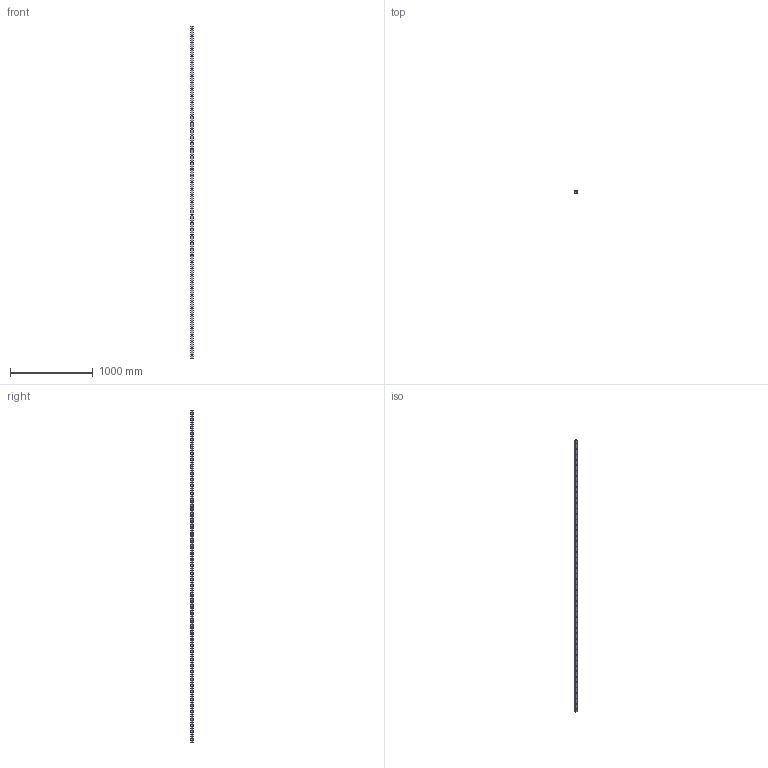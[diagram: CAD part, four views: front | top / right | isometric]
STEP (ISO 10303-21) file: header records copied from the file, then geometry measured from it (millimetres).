
FILE_DESCRIPTION (( 'STEP AP203' ), '1' );
FILE_NAME ('R30-4000.STEP', '2019-05-31T08:12:54', ( '' ), ( '' ), 'SwSTEP 2.0', 'SolidWorks 2016', '' );
FILE_SCHEMA (( 'CONFIG_CONTROL_DESIGN' ));
Length unit declared in the file: millimetre
Products named in the file (1): R30-4000
Bounding box: 28 x 26 x 4000 mm (x, y, z)
Volume: 2433026.7 mm3; surface area: 485227.2 mm2
Topology: 1 solids, 1 shells, 276 faces, 672 edges, 448 vertices
Faces by surface type: cylinder 206, plane 70
Entity records: 8605 total; most frequent: DIRECTION 1638, CARTESIAN_POINT 1397, ORIENTED_EDGE 1344, AXIS2_PLACEMENT_3D 689, EDGE_CURVE 672, VERTEX_POINT 448, EDGE_LOOP 426, CIRCLE 412
